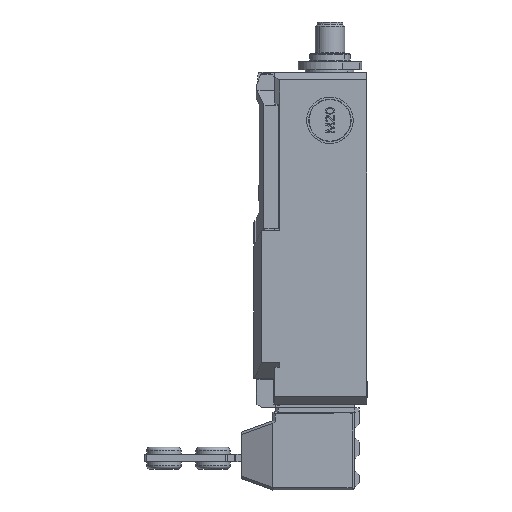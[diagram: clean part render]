
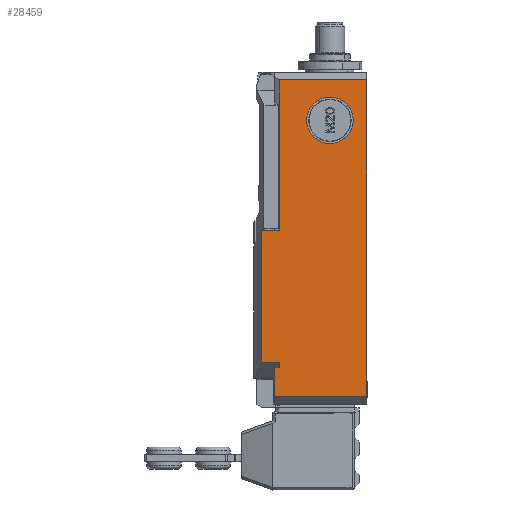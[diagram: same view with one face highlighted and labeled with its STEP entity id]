
A CAD part, left-side view. The second image highlights one B-rep face of the part: STEP entity #28459.
In plain terms, the highlighted planar face has unit normal (-1, 0, 0) as drawn and (1, 0, 0) by its records, which use the part's own axes.
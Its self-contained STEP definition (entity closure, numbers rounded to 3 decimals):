
#639=DIRECTION('',(0.,0.,1.));
#640=VECTOR('',#639,1.793);
#641=CARTESIAN_POINT('',(21.25,35.5,-3.793));
#642=LINE('',#641,#640);
#739=DIRECTION('',(0.,-1.,0.));
#740=VECTOR('',#739,2.);
#741=CARTESIAN_POINT('',(21.25,37.5,-2.));
#742=LINE('',#741,#740);
#746=DIRECTION('',(0.,1.,0.));
#747=VECTOR('',#746,7.352);
#748=CARTESIAN_POINT('',(21.25,35.5,-3.793));
#749=LINE('',#748,#747);
#753=DIRECTION('',(0.,-1.,0.));
#754=VECTOR('',#753,7.352);
#755=CARTESIAN_POINT('',(21.25,42.852,-57.784));
#756=LINE('',#755,#754);
#760=DIRECTION('',(0.,0.,-1.));
#761=VECTOR('',#760,10.);
#762=CARTESIAN_POINT('',(21.25,35.5,-109.));
#763=LINE('',#762,#761);
#767=DIRECTION('',(0.,0.,1.));
#768=VECTOR('',#767,129.);
#769=CARTESIAN_POINT('',(21.25,0.,-119.));
#770=LINE('',#769,#768);
#774=CARTESIAN_POINT('',(21.25,15.,-102.5));
#775=DIRECTION('',(1.,0.,0.));
#776=DIRECTION('',(0.,1.,0.));
#777=AXIS2_PLACEMENT_3D('',#774,#775,#776);
#782=CARTESIAN_POINT('',(21.25,15.,-102.5));
#783=DIRECTION('',(1.,0.,0.));
#784=DIRECTION('',(0.,-1.,0.));
#785=AXIS2_PLACEMENT_3D('',#782,#783,#784);
#790=DIRECTION('',(0.,-1.,0.));
#791=VECTOR('',#790,37.5);
#792=CARTESIAN_POINT('',(21.25,37.5,10.));
#793=LINE('',#792,#791);
#3697=DIRECTION('',(0.,0.,1.));
#3698=VECTOR('',#3697,53.991);
#3699=CARTESIAN_POINT('',(21.25,42.852,-57.784));
#3700=LINE('',#3699,#3698);
#3882=DIRECTION('',(0.,0.,1.));
#3883=VECTOR('',#3882,51.216);
#3884=CARTESIAN_POINT('',(21.25,35.5,-109.));
#3885=LINE('',#3884,#3883);
#10758=DIRECTION('',(0.,1.,0.));
#10759=VECTOR('',#10758,35.5);
#10760=CARTESIAN_POINT('',(21.25,0.,-119.));
#10761=LINE('',#10760,#10759);
#20066=DIRECTION('',(0.,0.,1.));
#20067=VECTOR('',#20066,12.);
#20068=CARTESIAN_POINT('',(21.25,37.5,-2.));
#20069=LINE('',#20068,#20067);
#24082=CARTESIAN_POINT('',(21.25,35.5,-109.));
#24083=VERTEX_POINT('',#24082);
#24084=CARTESIAN_POINT('',(21.25,35.5,-119.));
#24085=VERTEX_POINT('',#24084);
#24088=CARTESIAN_POINT('',(21.25,0.,-119.));
#24089=VERTEX_POINT('',#24088);
#24320=CARTESIAN_POINT('',(21.25,35.5,-57.784));
#24321=VERTEX_POINT('',#24320);
#24332=CARTESIAN_POINT('',(21.25,37.5,10.));
#24333=CARTESIAN_POINT('',(21.25,0.,10.));
#24334=VERTEX_POINT('',#24332);
#24335=VERTEX_POINT('',#24333);
#24336=CARTESIAN_POINT('',(21.25,37.5,-2.));
#24337=VERTEX_POINT('',#24336);
#24338=CARTESIAN_POINT('',(21.25,35.5,-2.));
#24339=VERTEX_POINT('',#24338);
#24340=CARTESIAN_POINT('',(21.25,35.5,-3.793));
#24341=VERTEX_POINT('',#24340);
#24342=CARTESIAN_POINT('',(21.25,42.852,-3.793));
#24343=VERTEX_POINT('',#24342);
#24344=CARTESIAN_POINT('',(21.25,42.852,-57.784));
#24345=VERTEX_POINT('',#24344);
#24346=CARTESIAN_POINT('',(21.25,24.46,-102.5));
#24347=CARTESIAN_POINT('',(21.25,5.54,-102.5));
#24348=VERTEX_POINT('',#24346);
#24349=VERTEX_POINT('',#24347);
#28426=CARTESIAN_POINT('',(21.25,42.852,13.));
#28427=DIRECTION('',(1.,0.,0.));
#28428=DIRECTION('',(0.,-1.,0.));
#28429=AXIS2_PLACEMENT_3D('',#28426,#28427,#28428);
#28430=PLANE('',#28429);
#28432=ORIENTED_EDGE('',*,*,#28431,.F.);
#28434=ORIENTED_EDGE('',*,*,#28433,.F.);
#28435=ORIENTED_EDGE('',*,*,#28418,.T.);
#28436=ORIENTED_EDGE('',*,*,#28351,.F.);
#28438=ORIENTED_EDGE('',*,*,#28437,.T.);
#28440=ORIENTED_EDGE('',*,*,#28439,.F.);
#28442=ORIENTED_EDGE('',*,*,#28441,.T.);
#28444=ORIENTED_EDGE('',*,*,#28443,.F.);
#28446=ORIENTED_EDGE('',*,*,#28445,.T.);
#28448=ORIENTED_EDGE('',*,*,#28447,.F.);
#28450=ORIENTED_EDGE('',*,*,#28449,.T.);
#28451=EDGE_LOOP('',(#28432,#28434,#28435,#28436,#28438,#28440,#28442,#28444,
#28446,#28448,#28450));
#28452=FACE_OUTER_BOUND('',#28451,.F.);
#28454=ORIENTED_EDGE('',*,*,#28453,.T.);
#28456=ORIENTED_EDGE('',*,*,#28455,.T.);
#28457=EDGE_LOOP('',(#28454,#28456));
#28458=FACE_BOUND('',#28457,.F.);
#778=CIRCLE('',#777,9.46);
#786=CIRCLE('',#785,9.46);
#28351=EDGE_CURVE('',#24341,#24339,#642,.T.);
#28418=EDGE_CURVE('',#24337,#24339,#742,.T.);
#28431=EDGE_CURVE('',#24334,#24335,#793,.T.);
#28433=EDGE_CURVE('',#24337,#24334,#20069,.T.);
#28437=EDGE_CURVE('',#24341,#24343,#749,.T.);
#28439=EDGE_CURVE('',#24345,#24343,#3700,.T.);
#28441=EDGE_CURVE('',#24345,#24321,#756,.T.);
#28443=EDGE_CURVE('',#24083,#24321,#3885,.T.);
#28445=EDGE_CURVE('',#24083,#24085,#763,.T.);
#28447=EDGE_CURVE('',#24089,#24085,#10761,.T.);
#28449=EDGE_CURVE('',#24089,#24335,#770,.T.);
#28453=EDGE_CURVE('',#24348,#24349,#778,.T.);
#28455=EDGE_CURVE('',#24349,#24348,#786,.T.);
#28459=ADVANCED_FACE('',(#28452,#28458),#28430,.T.);
